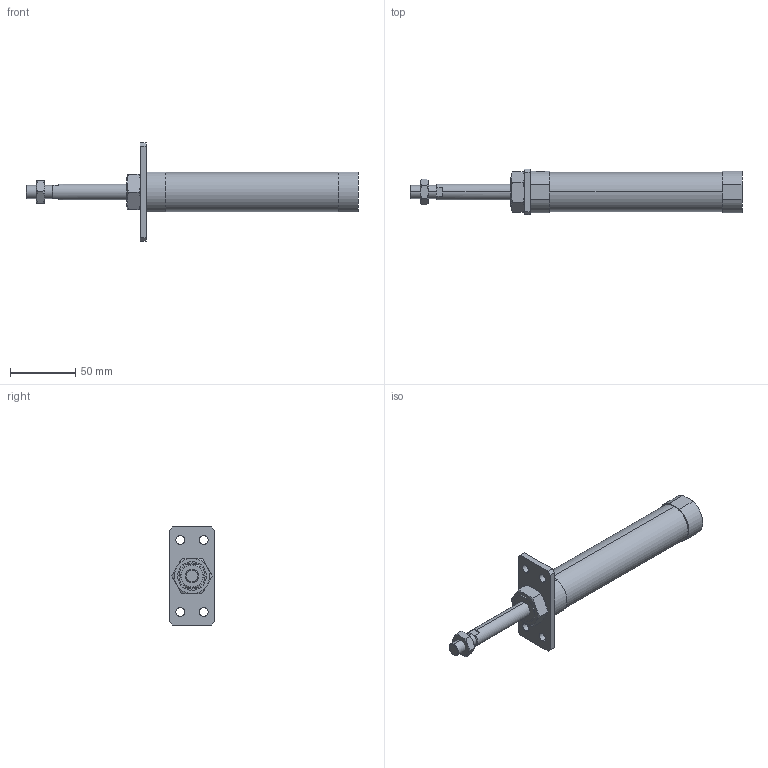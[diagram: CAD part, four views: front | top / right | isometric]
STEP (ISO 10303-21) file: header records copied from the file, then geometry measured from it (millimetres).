
FILE_DESCRIPTION (( 'STEP AP203' ), '1' );
FILE_NAME ('JGND0-25-50-A.STEP', '2016-08-04T02:10:03', ( '' ), ( '' ), 'SwSTEP 2.0', 'SolidWorks 2014', '' );
FILE_SCHEMA (( 'CONFIG_CONTROL_DESIGN' ));
Length unit declared in the file: millimetre
Products named in the file (5): J#0-25-50(P); JGND0-25-50-A; J#2-25-A
Assembly tree (4 placements, depth 2):
  JGND0-25-50-A
    J#0-25-50(P)
    (unnamed)
    (unnamed)
    J#2-25-A
Bounding box: 254 x 35 x 75 mm (x, y, z)
Volume: 142840.9 mm3; surface area: 30396.6 mm2
Topology: 4 solids, 4 shells, 105 faces, 242 edges, 147 vertices
Faces by surface type: plane 45, cylinder 30, torus 24, cone 6
Entity records: 3749 total; most frequent: CARTESIAN_POINT 873, DIRECTION 500, ORIENTED_EDGE 480, EDGE_CURVE 240, AXIS2_PLACEMENT_3D 202, VERTEX_POINT 147, EDGE_LOOP 123, FACE_OUTER_BOUND 105
